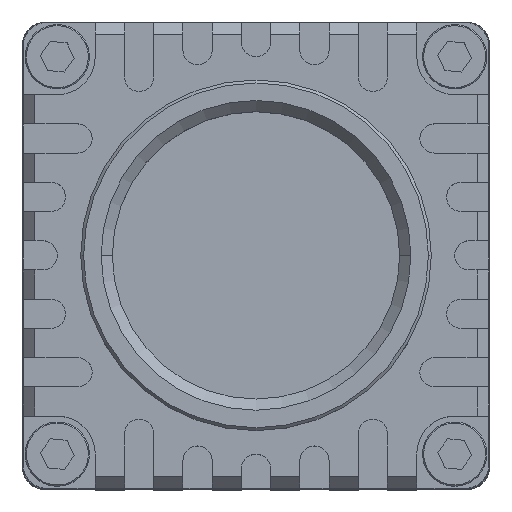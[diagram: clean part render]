
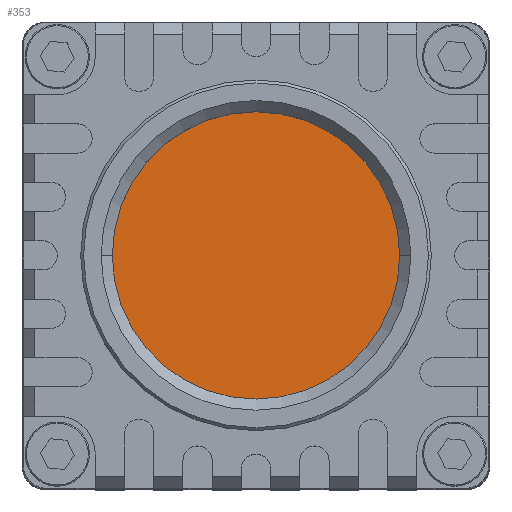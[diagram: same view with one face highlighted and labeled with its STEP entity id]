
A CAD part, top view. The second image highlights one B-rep face of the part: STEP entity #353.
In plain terms, the highlighted planar face has unit normal (0, 0, 1).
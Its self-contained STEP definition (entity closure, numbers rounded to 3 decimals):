
#353 = ADVANCED_FACE ( 'NONE', ( #12345 ), #19592, .T. ) ;
#1358 = DIRECTION ( 'NONE',  ( 1., 0., 0. ) ) ;
#2359 = CARTESIAN_POINT ( 'NONE',  ( 0., 0., 3.163 ) ) ;
#2728 = DIRECTION ( 'NONE',  ( 1., 0., 0. ) ) ;
#3251 = EDGE_CURVE ( 'NONE', #18431, #7113, #22313, .T. ) ;
#3783 = CARTESIAN_POINT ( 'NONE',  ( -14.3, 0., 3.163 ) ) ;
#4353 = DIRECTION ( 'NONE',  ( 0., 0., 1. ) ) ;
#4576 = CARTESIAN_POINT ( 'NONE',  ( 14.3, 0., 3.163 ) ) ;
#5470 = CARTESIAN_POINT ( 'NONE',  ( 0., 0., 3.163 ) ) ;
#6703 = AXIS2_PLACEMENT_3D ( 'NONE', #2359, #4353, #2728 ) ;
#7113 = VERTEX_POINT ( 'NONE', #4576 ) ;
#10841 = AXIS2_PLACEMENT_3D ( 'NONE', #5470, #24079, #1358 ) ;
#11576 = AXIS2_PLACEMENT_3D ( 'NONE', #23244, #13510, #15894 ) ;
#12068 = CIRCLE ( 'NONE', #10841, 14.3 ) ;
#12345 = FACE_OUTER_BOUND ( 'NONE', #21875, .T. ) ;
#13510 = DIRECTION ( 'NONE',  ( 0., 0., 1. ) ) ;
#13755 = ORIENTED_EDGE ( 'NONE', *, *, #21617, .T. ) ;
#15894 = DIRECTION ( 'NONE',  ( 1., 0., 0. ) ) ;
#18392 = ORIENTED_EDGE ( 'NONE', *, *, #3251, .T. ) ;
#18431 = VERTEX_POINT ( 'NONE', #3783 ) ;
#19592 = PLANE ( 'NONE',  #6703 ) ;
#21617 = EDGE_CURVE ( 'NONE', #7113, #18431, #12068, .T. ) ;
#21875 = EDGE_LOOP ( 'NONE', ( #13755, #18392 ) ) ;
#22313 = CIRCLE ( 'NONE', #11576, 14.3 ) ;
#23244 = CARTESIAN_POINT ( 'NONE',  ( 0., 0., 3.163 ) ) ;
#24079 = DIRECTION ( 'NONE',  ( 0., 0., 1. ) ) ;
